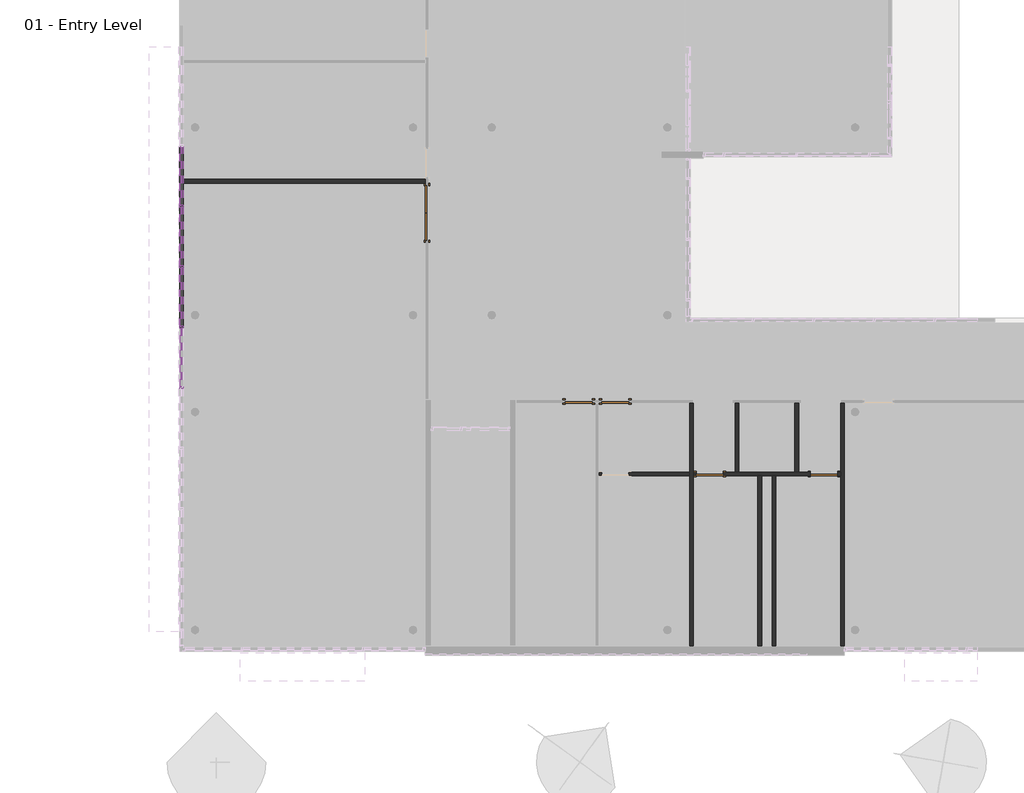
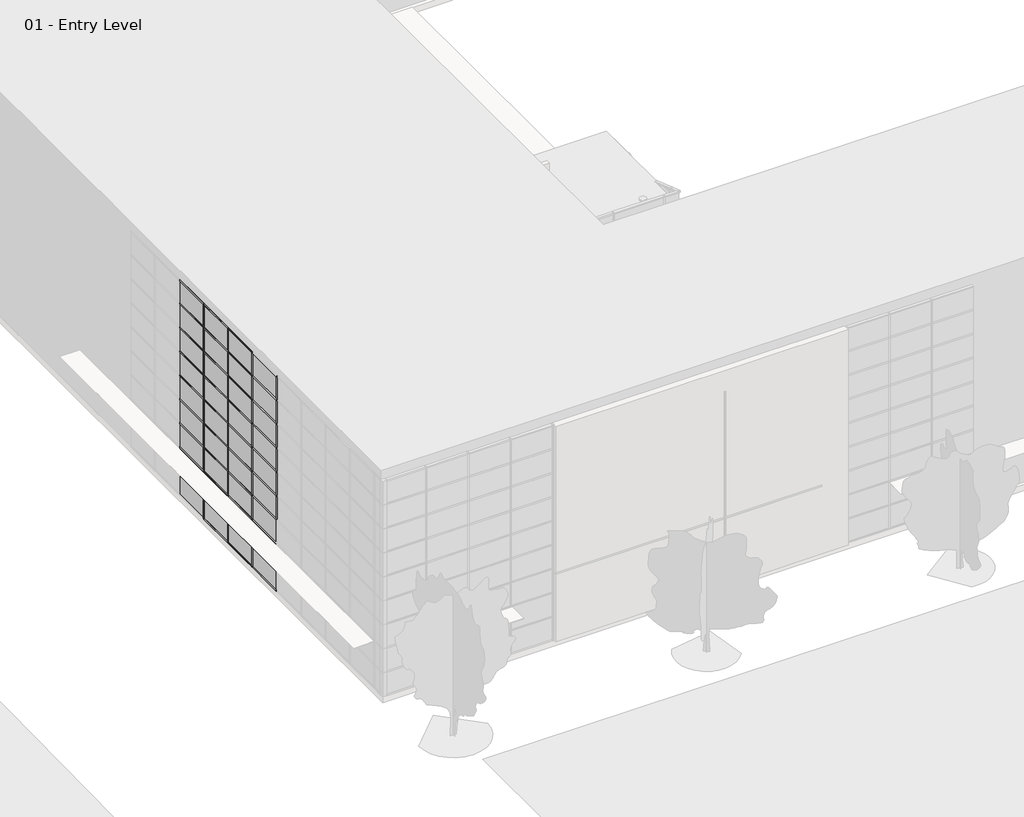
# One storey, part 8 of 34: 64 members, 42 plates, 8 walls, 5 doors.
"""IFC4 building model written with IfcOpenShell, lengths in millimetres."""

from ifc_helpers import new_model, si_unit, origin, origin_with_axes, place, context, project, spatial, polyline, outline, extrude, faceted_brep, transform, mapped, element, save
from components import door_2ec079c3, door_a1797ceb, door_a3eb833a, member_2b49869a, member_391b434c, member_9e90ae50, member_ba732fc4, system_panel_glazed_1b9d6098, system_panel_glazed_70da479d, system_panel_glazed_4b84483b, system_panel_glazed_9dcaf0c5, system_panel_solid_b376696c, system_panel_solid_77e8b053

model = new_model("IFC4")

# Units and contexts
model_context = context("Model", 3, world=origin())
ifc_project = project(units=[si_unit("LENGTHUNIT", "METRE", prefix="MILLI")], contexts=[model_context])

# Site, building, storey
site = spatial("IfcSite", under=ifc_project)
building = spatial("IfcBuilding", under=site)
storey = spatial("IfcBuildingStorey", under=building, Name="01 - Entry Level", Elevation=0.0)

# Doors
placement = place(None, origin())
door_shape = door_2ec079c3(model_context)
element("IfcDoor", 1, ObjectType="Double-Flush : 72\" x 84\"", at=placement, inside=storey, context=model_context, shape_type="MappedRepresentation", body=[
    mapped(door_shape, transform((8421.0207476, 14595.4, 0.0), x_axis=(0.0, 1.0, 0.0), y_axis=(-1.0, 0.0, 0.0), z_axis=(0.0, 0.0, 1.0))),
])
door_2_shape = door_a1797ceb(model_context)
element("IfcDoor", 2, ObjectType="Single-Flush : 36\" x 84\"", at=placement, inside=storey, context=model_context, shape_type="MappedRepresentation", body=[
    mapped(door_2_shape, transform((14732.9207476, 8270.8, 0.0), x_axis=(-1.0, 0.0, 0.0), y_axis=(0.0, -1.0, 0.0), z_axis=(0.0, 0.0, 1.0))),
])
element("IfcDoor", 3, ObjectType="Single-Flush : 36\" x 84\"", at=placement, inside=storey, context=model_context, shape_type="MappedRepresentation", body=[
    mapped(door_2_shape, transform((17907.9207476, 5832.4, 0.0), x_axis=(-1.0, 0.0, 0.0), y_axis=(0.0, -1.0, 0.0), z_axis=(0.0, 0.0, 1.0))),
])
door_3_shape = door_a3eb833a(model_context)
element("IfcDoor", 4, ObjectType="Single-Flush : 36\" x 84\"", at=placement, inside=storey, context=model_context, shape_type="MappedRepresentation", body=[
    mapped(door_3_shape, transform((13513.7207476, 8270.8, 0.0), x_axis=(1.0, 0.0, 0.0), y_axis=(0.0, 1.0, 0.0), z_axis=(0.0, 0.0, 1.0))),
])
element("IfcDoor", 5, ObjectType="Single-Flush : 36\" x 84\"", at=placement, inside=storey, context=model_context, shape_type="MappedRepresentation", body=[
    mapped(door_3_shape, transform((21743.3207476, 5832.4, 0.0), x_axis=(1.0, 0.0, 0.0), y_axis=(0.0, 1.0, 0.0), z_axis=(0.0, 0.0, 1.0))),
])

# Members
member_shape = member_2b49869a(model_context)
element("IfcMember", 6, ObjectType="Rectangular Mullion : 2.5\" x 5\" rectangular", at=placement, inside=storey, context=model_context, shape_type="MappedRepresentation", body=[
    mapped(member_shape, transform((178.7207476, 14824.0, 9753.6), x_axis=(0.0, -1.0, 0.0), y_axis=(-1.0, 0.0, 0.0), z_axis=(0.0, 0.0, -1.0))),
])
element("IfcMember", 7, ObjectType="Rectangular Mullion : 2.5\" x 5\" rectangular", at=placement, inside=storey, context=model_context, shape_type="MappedRepresentation", body=[
    mapped(member_shape, transform((178.7207476, 12792.0, 9753.6), x_axis=(0.0, -1.0, 0.0), y_axis=(-1.0, 0.0, 0.0), z_axis=(0.0, 0.0, -1.0))),
])
element("IfcMember", 8, ObjectType="Rectangular Mullion : 2.5\" x 5\" rectangular", at=placement, inside=storey, context=model_context, shape_type="MappedRepresentation", body=[
    mapped(member_shape, transform((178.7207476, 10760.0, 9753.6), x_axis=(0.0, -1.0, 0.0), y_axis=(-1.0, 0.0, 0.0), z_axis=(0.0, 0.0, -1.0))),
])
element("IfcMember", 9, ObjectType="Rectangular Mullion : 2.5\" x 5\" rectangular", at=placement, inside=storey, context=model_context, shape_type="MappedRepresentation", body=[
    mapped(member_shape, transform((178.7207476, 8728.0, 9753.6), x_axis=(0.0, -1.0, 0.0), y_axis=(-1.0, 0.0, 0.0), z_axis=(0.0, 0.0, -1.0))),
])
member_2_shape = member_391b434c(model_context)
element("IfcMember", 10, ObjectType="Rectangular Mullion : 2.5\" x 5\" rectangular", at=placement, inside=storey, context=model_context, shape_type="MappedRepresentation", body=[
    mapped(member_2_shape, transform((178.7207476, 14855.75, 10972.8), x_axis=(0.0, 0.0, 1.0), y_axis=(-1.0, 0.0, 0.0), z_axis=(0.0, -1.0, 0.0))),
])
element("IfcMember", 11, ObjectType="Rectangular Mullion : 2.5\" x 5\" rectangular", at=placement, inside=storey, context=model_context, shape_type="MappedRepresentation", body=[
    mapped(member_2_shape, transform((178.7207476, 12823.75, 10972.8), x_axis=(0.0, 0.0, 1.0), y_axis=(-1.0, 0.0, 0.0), z_axis=(0.0, -1.0, 0.0))),
])
element("IfcMember", 12, ObjectType="Rectangular Mullion : 2.5\" x 5\" rectangular", at=placement, inside=storey, context=model_context, shape_type="MappedRepresentation", body=[
    mapped(member_2_shape, transform((178.7207476, 10791.75, 10972.8), x_axis=(0.0, 0.0, 1.0), y_axis=(-1.0, 0.0, 0.0), z_axis=(0.0, -1.0, 0.0))),
])
element("IfcMember", 13, ObjectType="Rectangular Mullion : 2.5\" x 5\" rectangular", at=placement, inside=storey, context=model_context, shape_type="MappedRepresentation", body=[
    mapped(member_2_shape, transform((178.7207476, 14792.25, 0.0), x_axis=(0.0, 0.0, -1.0), y_axis=(-1.0, 0.0, 0.0), z_axis=(0.0, 1.0, 0.0))),
])
element("IfcMember", 14, ObjectType="Rectangular Mullion : 2.5\" x 5\" rectangular", at=placement, inside=storey, context=model_context, shape_type="MappedRepresentation", body=[
    mapped(member_2_shape, transform((178.7207476, 12760.25, 0.0), x_axis=(0.0, 0.0, -1.0), y_axis=(-1.0, 0.0, 0.0), z_axis=(0.0, 1.0, 0.0))),
])
element("IfcMember", 15, ObjectType="Rectangular Mullion : 2.5\" x 5\" rectangular", at=placement, inside=storey, context=model_context, shape_type="MappedRepresentation", body=[
    mapped(member_2_shape, transform((178.7207476, 10728.25, 0.0), x_axis=(0.0, 0.0, -1.0), y_axis=(-1.0, 0.0, 0.0), z_axis=(0.0, 1.0, 0.0))),
])
member_3_shape = member_9e90ae50(model_context)
element("IfcMember", 16, ObjectType="Rectangular Mullion : 2.5\" x 5\" rectangular", at=placement, inside=storey, context=model_context, shape_type="MappedRepresentation", body=[
    mapped(member_3_shape, transform((178.7207476, 14855.75, 1219.2), x_axis=(0.0, 0.0, 1.0), y_axis=(-1.0, 0.0, 0.0), z_axis=(0.0, -1.0, 0.0))),
])
element("IfcMember", 17, ObjectType="Rectangular Mullion : 2.5\" x 5\" rectangular", at=placement, inside=storey, context=model_context, shape_type="MappedRepresentation", body=[
    mapped(member_3_shape, transform((178.7207476, 12823.75, 1219.2), x_axis=(0.0, 0.0, 1.0), y_axis=(-1.0, 0.0, 0.0), z_axis=(0.0, -1.0, 0.0))),
])
element("IfcMember", 18, ObjectType="Rectangular Mullion : 2.5\" x 5\" rectangular", at=placement, inside=storey, context=model_context, shape_type="MappedRepresentation", body=[
    mapped(member_3_shape, transform((178.7207476, 10791.75, 1219.2), x_axis=(0.0, 0.0, 1.0), y_axis=(-1.0, 0.0, 0.0), z_axis=(0.0, -1.0, 0.0))),
])
element("IfcMember", 19, ObjectType="Rectangular Mullion : 2.5\" x 5\" rectangular", at=placement, inside=storey, context=model_context, shape_type="MappedRepresentation", body=[
    mapped(member_3_shape, transform((178.7207476, 14855.75, 2438.4), x_axis=(0.0, 0.0, 1.0), y_axis=(-1.0, 0.0, 0.0), z_axis=(0.0, -1.0, 0.0))),
])
element("IfcMember", 20, ObjectType="Rectangular Mullion : 2.5\" x 5\" rectangular", at=placement, inside=storey, context=model_context, shape_type="MappedRepresentation", body=[
    mapped(member_3_shape, transform((178.7207476, 12823.75, 2438.4), x_axis=(0.0, 0.0, 1.0), y_axis=(-1.0, 0.0, 0.0), z_axis=(0.0, -1.0, 0.0))),
])
element("IfcMember", 21, ObjectType="Rectangular Mullion : 2.5\" x 5\" rectangular", at=placement, inside=storey, context=model_context, shape_type="MappedRepresentation", body=[
    mapped(member_3_shape, transform((178.7207476, 10791.75, 2438.4), x_axis=(0.0, 0.0, 1.0), y_axis=(-1.0, 0.0, 0.0), z_axis=(0.0, -1.0, 0.0))),
])
element("IfcMember", 22, ObjectType="Rectangular Mullion : 2.5\" x 5\" rectangular", at=placement, inside=storey, context=model_context, shape_type="MappedRepresentation", body=[
    mapped(member_3_shape, transform((178.7207476, 14855.75, 3657.6), x_axis=(0.0, 0.0, 1.0), y_axis=(-1.0, 0.0, 0.0), z_axis=(0.0, -1.0, 0.0))),
])
element("IfcMember", 23, ObjectType="Rectangular Mullion : 2.5\" x 5\" rectangular", at=placement, inside=storey, context=model_context, shape_type="MappedRepresentation", body=[
    mapped(member_3_shape, transform((178.7207476, 12823.75, 3657.6), x_axis=(0.0, 0.0, 1.0), y_axis=(-1.0, 0.0, 0.0), z_axis=(0.0, -1.0, 0.0))),
])
element("IfcMember", 24, ObjectType="Rectangular Mullion : 2.5\" x 5\" rectangular", at=placement, inside=storey, context=model_context, shape_type="MappedRepresentation", body=[
    mapped(member_3_shape, transform((178.7207476, 10791.75, 3657.6), x_axis=(0.0, 0.0, 1.0), y_axis=(-1.0, 0.0, 0.0), z_axis=(0.0, -1.0, 0.0))),
])
element("IfcMember", 25, ObjectType="Rectangular Mullion : 2.5\" x 5\" rectangular", at=placement, inside=storey, context=model_context, shape_type="MappedRepresentation", body=[
    mapped(member_3_shape, transform((178.7207476, 14855.75, 4876.8), x_axis=(0.0, 0.0, 1.0), y_axis=(-1.0, 0.0, 0.0), z_axis=(0.0, -1.0, 0.0))),
])
element("IfcMember", 26, ObjectType="Rectangular Mullion : 2.5\" x 5\" rectangular", at=placement, inside=storey, context=model_context, shape_type="MappedRepresentation", body=[
    mapped(member_3_shape, transform((178.7207476, 12823.75, 4876.8), x_axis=(0.0, 0.0, 1.0), y_axis=(-1.0, 0.0, 0.0), z_axis=(0.0, -1.0, 0.0))),
])
element("IfcMember", 27, ObjectType="Rectangular Mullion : 2.5\" x 5\" rectangular", at=placement, inside=storey, context=model_context, shape_type="MappedRepresentation", body=[
    mapped(member_3_shape, transform((178.7207476, 10791.75, 4876.8), x_axis=(0.0, 0.0, 1.0), y_axis=(-1.0, 0.0, 0.0), z_axis=(0.0, -1.0, 0.0))),
])
element("IfcMember", 28, ObjectType="Rectangular Mullion : 2.5\" x 5\" rectangular", at=placement, inside=storey, context=model_context, shape_type="MappedRepresentation", body=[
    mapped(member_3_shape, transform((178.7207476, 14855.75, 6096.0), x_axis=(0.0, 0.0, 1.0), y_axis=(-1.0, 0.0, 0.0), z_axis=(0.0, -1.0, 0.0))),
])
element("IfcMember", 29, ObjectType="Rectangular Mullion : 2.5\" x 5\" rectangular", at=placement, inside=storey, context=model_context, shape_type="MappedRepresentation", body=[
    mapped(member_3_shape, transform((178.7207476, 12823.75, 6096.0), x_axis=(0.0, 0.0, 1.0), y_axis=(-1.0, 0.0, 0.0), z_axis=(0.0, -1.0, 0.0))),
])
element("IfcMember", 30, ObjectType="Rectangular Mullion : 2.5\" x 5\" rectangular", at=placement, inside=storey, context=model_context, shape_type="MappedRepresentation", body=[
    mapped(member_3_shape, transform((178.7207476, 10791.75, 6096.0), x_axis=(0.0, 0.0, 1.0), y_axis=(-1.0, 0.0, 0.0), z_axis=(0.0, -1.0, 0.0))),
])
element("IfcMember", 31, ObjectType="Rectangular Mullion : 2.5\" x 5\" rectangular", at=placement, inside=storey, context=model_context, shape_type="MappedRepresentation", body=[
    mapped(member_3_shape, transform((178.7207476, 14855.75, 7315.2), x_axis=(0.0, 0.0, 1.0), y_axis=(-1.0, 0.0, 0.0), z_axis=(0.0, -1.0, 0.0))),
])
element("IfcMember", 32, ObjectType="Rectangular Mullion : 2.5\" x 5\" rectangular", at=placement, inside=storey, context=model_context, shape_type="MappedRepresentation", body=[
    mapped(member_3_shape, transform((178.7207476, 12823.75, 7315.2), x_axis=(0.0, 0.0, 1.0), y_axis=(-1.0, 0.0, 0.0), z_axis=(0.0, -1.0, 0.0))),
])
element("IfcMember", 33, ObjectType="Rectangular Mullion : 2.5\" x 5\" rectangular", at=placement, inside=storey, context=model_context, shape_type="MappedRepresentation", body=[
    mapped(member_3_shape, transform((178.7207476, 10791.75, 7315.2), x_axis=(0.0, 0.0, 1.0), y_axis=(-1.0, 0.0, 0.0), z_axis=(0.0, -1.0, 0.0))),
])
element("IfcMember", 34, ObjectType="Rectangular Mullion : 2.5\" x 5\" rectangular", at=placement, inside=storey, context=model_context, shape_type="MappedRepresentation", body=[
    mapped(member_3_shape, transform((178.7207476, 14855.75, 8534.4), x_axis=(0.0, 0.0, 1.0), y_axis=(-1.0, 0.0, 0.0), z_axis=(0.0, -1.0, 0.0))),
])
element("IfcMember", 35, ObjectType="Rectangular Mullion : 2.5\" x 5\" rectangular", at=placement, inside=storey, context=model_context, shape_type="MappedRepresentation", body=[
    mapped(member_3_shape, transform((178.7207476, 12823.75, 8534.4), x_axis=(0.0, 0.0, 1.0), y_axis=(-1.0, 0.0, 0.0), z_axis=(0.0, -1.0, 0.0))),
])
element("IfcMember", 36, ObjectType="Rectangular Mullion : 2.5\" x 5\" rectangular", at=placement, inside=storey, context=model_context, shape_type="MappedRepresentation", body=[
    mapped(member_3_shape, transform((178.7207476, 10791.75, 8534.4), x_axis=(0.0, 0.0, 1.0), y_axis=(-1.0, 0.0, 0.0), z_axis=(0.0, -1.0, 0.0))),
])
element("IfcMember", 37, ObjectType="Rectangular Mullion : 2.5\" x 5\" rectangular", at=placement, inside=storey, context=model_context, shape_type="MappedRepresentation", body=[
    mapped(member_3_shape, transform((178.7207476, 14855.75, 9753.6), x_axis=(0.0, 0.0, 1.0), y_axis=(-1.0, 0.0, 0.0), z_axis=(0.0, -1.0, 0.0))),
])
element("IfcMember", 38, ObjectType="Rectangular Mullion : 2.5\" x 5\" rectangular", at=placement, inside=storey, context=model_context, shape_type="MappedRepresentation", body=[
    mapped(member_3_shape, transform((178.7207476, 12823.75, 9753.6), x_axis=(0.0, 0.0, 1.0), y_axis=(-1.0, 0.0, 0.0), z_axis=(0.0, -1.0, 0.0))),
])
element("IfcMember", 39, ObjectType="Rectangular Mullion : 2.5\" x 5\" rectangular", at=placement, inside=storey, context=model_context, shape_type="MappedRepresentation", body=[
    mapped(member_3_shape, transform((178.7207476, 10791.75, 9753.6), x_axis=(0.0, 0.0, 1.0), y_axis=(-1.0, 0.0, 0.0), z_axis=(0.0, -1.0, 0.0))),
])
element("IfcMember", 40, ObjectType="Rectangular Mullion : 2.5\" x 5\" rectangular", at=placement, inside=storey, context=model_context, shape_type="MappedRepresentation", body=[
    mapped(member_shape, transform((178.7207476, 14824.0, 0.0), x_axis=(0.0, -1.0, 0.0), y_axis=(-1.0, 0.0, 0.0), z_axis=(0.0, 0.0, -1.0))),
])
element("IfcMember", 41, ObjectType="Rectangular Mullion : 2.5\" x 5\" rectangular", at=placement, inside=storey, context=model_context, shape_type="MappedRepresentation", body=[
    mapped(member_shape, transform((178.7207476, 12792.0, 0.0), x_axis=(0.0, -1.0, 0.0), y_axis=(-1.0, 0.0, 0.0), z_axis=(0.0, 0.0, -1.0))),
])
element("IfcMember", 42, ObjectType="Rectangular Mullion : 2.5\" x 5\" rectangular", at=placement, inside=storey, context=model_context, shape_type="MappedRepresentation", body=[
    mapped(member_shape, transform((178.7207476, 10760.0, 0.0), x_axis=(0.0, -1.0, 0.0), y_axis=(-1.0, 0.0, 0.0), z_axis=(0.0, 0.0, -1.0))),
])
element("IfcMember", 43, ObjectType="Rectangular Mullion : 2.5\" x 5\" rectangular", at=placement, inside=storey, context=model_context, shape_type="MappedRepresentation", body=[
    mapped(member_shape, transform((178.7207476, 14824.0, 1219.2), x_axis=(0.0, -1.0, 0.0), y_axis=(-1.0, 0.0, 0.0), z_axis=(0.0, 0.0, -1.0))),
])
element("IfcMember", 44, ObjectType="Rectangular Mullion : 2.5\" x 5\" rectangular", at=placement, inside=storey, context=model_context, shape_type="MappedRepresentation", body=[
    mapped(member_shape, transform((178.7207476, 12792.0, 1219.2), x_axis=(0.0, -1.0, 0.0), y_axis=(-1.0, 0.0, 0.0), z_axis=(0.0, 0.0, -1.0))),
])
element("IfcMember", 45, ObjectType="Rectangular Mullion : 2.5\" x 5\" rectangular", at=placement, inside=storey, context=model_context, shape_type="MappedRepresentation", body=[
    mapped(member_shape, transform((178.7207476, 10760.0, 1219.2), x_axis=(0.0, -1.0, 0.0), y_axis=(-1.0, 0.0, 0.0), z_axis=(0.0, 0.0, -1.0))),
])
element("IfcMember", 46, ObjectType="Rectangular Mullion : 2.5\" x 5\" rectangular", at=placement, inside=storey, context=model_context, shape_type="MappedRepresentation", body=[
    mapped(member_shape, transform((178.7207476, 14824.0, 2438.4), x_axis=(0.0, -1.0, 0.0), y_axis=(-1.0, 0.0, 0.0), z_axis=(0.0, 0.0, -1.0))),
])
element("IfcMember", 47, ObjectType="Rectangular Mullion : 2.5\" x 5\" rectangular", at=placement, inside=storey, context=model_context, shape_type="MappedRepresentation", body=[
    mapped(member_shape, transform((178.7207476, 12792.0, 2438.4), x_axis=(0.0, -1.0, 0.0), y_axis=(-1.0, 0.0, 0.0), z_axis=(0.0, 0.0, -1.0))),
])
element("IfcMember", 48, ObjectType="Rectangular Mullion : 2.5\" x 5\" rectangular", at=placement, inside=storey, context=model_context, shape_type="MappedRepresentation", body=[
    mapped(member_shape, transform((178.7207476, 10760.0, 2438.4), x_axis=(0.0, -1.0, 0.0), y_axis=(-1.0, 0.0, 0.0), z_axis=(0.0, 0.0, -1.0))),
])
element("IfcMember", 49, ObjectType="Rectangular Mullion : 2.5\" x 5\" rectangular", at=placement, inside=storey, context=model_context, shape_type="MappedRepresentation", body=[
    mapped(member_shape, transform((178.7207476, 14824.0, 3657.6), x_axis=(0.0, -1.0, 0.0), y_axis=(-1.0, 0.0, 0.0), z_axis=(0.0, 0.0, -1.0))),
])
element("IfcMember", 50, ObjectType="Rectangular Mullion : 2.5\" x 5\" rectangular", at=placement, inside=storey, context=model_context, shape_type="MappedRepresentation", body=[
    mapped(member_shape, transform((178.7207476, 12792.0, 3657.6), x_axis=(0.0, -1.0, 0.0), y_axis=(-1.0, 0.0, 0.0), z_axis=(0.0, 0.0, -1.0))),
])
element("IfcMember", 51, ObjectType="Rectangular Mullion : 2.5\" x 5\" rectangular", at=placement, inside=storey, context=model_context, shape_type="MappedRepresentation", body=[
    mapped(member_shape, transform((178.7207476, 10760.0, 3657.6), x_axis=(0.0, -1.0, 0.0), y_axis=(-1.0, 0.0, 0.0), z_axis=(0.0, 0.0, -1.0))),
])
element("IfcMember", 52, ObjectType="Rectangular Mullion : 2.5\" x 5\" rectangular", at=placement, inside=storey, context=model_context, shape_type="MappedRepresentation", body=[
    mapped(member_shape, transform((178.7207476, 8728.0, 3657.6), x_axis=(0.0, -1.0, 0.0), y_axis=(-1.0, 0.0, 0.0), z_axis=(0.0, 0.0, -1.0))),
])
element("IfcMember", 53, ObjectType="Rectangular Mullion : 2.5\" x 5\" rectangular", at=placement, inside=storey, context=model_context, shape_type="MappedRepresentation", body=[
    mapped(member_shape, transform((178.7207476, 14824.0, 4876.8), x_axis=(0.0, -1.0, 0.0), y_axis=(-1.0, 0.0, 0.0), z_axis=(0.0, 0.0, -1.0))),
])
element("IfcMember", 54, ObjectType="Rectangular Mullion : 2.5\" x 5\" rectangular", at=placement, inside=storey, context=model_context, shape_type="MappedRepresentation", body=[
    mapped(member_shape, transform((178.7207476, 12792.0, 4876.8), x_axis=(0.0, -1.0, 0.0), y_axis=(-1.0, 0.0, 0.0), z_axis=(0.0, 0.0, -1.0))),
])
element("IfcMember", 55, ObjectType="Rectangular Mullion : 2.5\" x 5\" rectangular", at=placement, inside=storey, context=model_context, shape_type="MappedRepresentation", body=[
    mapped(member_shape, transform((178.7207476, 10760.0, 4876.8), x_axis=(0.0, -1.0, 0.0), y_axis=(-1.0, 0.0, 0.0), z_axis=(0.0, 0.0, -1.0))),
])
element("IfcMember", 56, ObjectType="Rectangular Mullion : 2.5\" x 5\" rectangular", at=placement, inside=storey, context=model_context, shape_type="MappedRepresentation", body=[
    mapped(member_shape, transform((178.7207476, 8728.0, 4876.8), x_axis=(0.0, -1.0, 0.0), y_axis=(-1.0, 0.0, 0.0), z_axis=(0.0, 0.0, -1.0))),
])
element("IfcMember", 57, ObjectType="Rectangular Mullion : 2.5\" x 5\" rectangular", at=placement, inside=storey, context=model_context, shape_type="MappedRepresentation", body=[
    mapped(member_shape, transform((178.7207476, 14824.0, 6096.0), x_axis=(0.0, -1.0, 0.0), y_axis=(-1.0, 0.0, 0.0), z_axis=(0.0, 0.0, -1.0))),
])
element("IfcMember", 58, ObjectType="Rectangular Mullion : 2.5\" x 5\" rectangular", at=placement, inside=storey, context=model_context, shape_type="MappedRepresentation", body=[
    mapped(member_shape, transform((178.7207476, 12792.0, 6096.0), x_axis=(0.0, -1.0, 0.0), y_axis=(-1.0, 0.0, 0.0), z_axis=(0.0, 0.0, -1.0))),
])
element("IfcMember", 59, ObjectType="Rectangular Mullion : 2.5\" x 5\" rectangular", at=placement, inside=storey, context=model_context, shape_type="MappedRepresentation", body=[
    mapped(member_shape, transform((178.7207476, 10760.0, 6096.0), x_axis=(0.0, -1.0, 0.0), y_axis=(-1.0, 0.0, 0.0), z_axis=(0.0, 0.0, -1.0))),
])
element("IfcMember", 60, ObjectType="Rectangular Mullion : 2.5\" x 5\" rectangular", at=placement, inside=storey, context=model_context, shape_type="MappedRepresentation", body=[
    mapped(member_shape, transform((178.7207476, 8728.0, 6096.0), x_axis=(0.0, -1.0, 0.0), y_axis=(-1.0, 0.0, 0.0), z_axis=(0.0, 0.0, -1.0))),
])
element("IfcMember", 61, ObjectType="Rectangular Mullion : 2.5\" x 5\" rectangular", at=placement, inside=storey, context=model_context, shape_type="MappedRepresentation", body=[
    mapped(member_shape, transform((178.7207476, 14824.0, 7315.2), x_axis=(0.0, -1.0, 0.0), y_axis=(-1.0, 0.0, 0.0), z_axis=(0.0, 0.0, -1.0))),
])
element("IfcMember", 62, ObjectType="Rectangular Mullion : 2.5\" x 5\" rectangular", at=placement, inside=storey, context=model_context, shape_type="MappedRepresentation", body=[
    mapped(member_shape, transform((178.7207476, 12792.0, 7315.2), x_axis=(0.0, -1.0, 0.0), y_axis=(-1.0, 0.0, 0.0), z_axis=(0.0, 0.0, -1.0))),
])
element("IfcMember", 63, ObjectType="Rectangular Mullion : 2.5\" x 5\" rectangular", at=placement, inside=storey, context=model_context, shape_type="MappedRepresentation", body=[
    mapped(member_shape, transform((178.7207476, 10760.0, 7315.2), x_axis=(0.0, -1.0, 0.0), y_axis=(-1.0, 0.0, 0.0), z_axis=(0.0, 0.0, -1.0))),
])
element("IfcMember", 64, ObjectType="Rectangular Mullion : 2.5\" x 5\" rectangular", at=placement, inside=storey, context=model_context, shape_type="MappedRepresentation", body=[
    mapped(member_shape, transform((178.7207476, 8728.0, 7315.2), x_axis=(0.0, -1.0, 0.0), y_axis=(-1.0, 0.0, 0.0), z_axis=(0.0, 0.0, -1.0))),
])
element("IfcMember", 65, ObjectType="Rectangular Mullion : 2.5\" x 5\" rectangular", at=placement, inside=storey, context=model_context, shape_type="MappedRepresentation", body=[
    mapped(member_shape, transform((178.7207476, 14824.0, 8534.4), x_axis=(0.0, -1.0, 0.0), y_axis=(-1.0, 0.0, 0.0), z_axis=(0.0, 0.0, -1.0))),
])
element("IfcMember", 66, ObjectType="Rectangular Mullion : 2.5\" x 5\" rectangular", at=placement, inside=storey, context=model_context, shape_type="MappedRepresentation", body=[
    mapped(member_shape, transform((178.7207476, 12792.0, 8534.4), x_axis=(0.0, -1.0, 0.0), y_axis=(-1.0, 0.0, 0.0), z_axis=(0.0, 0.0, -1.0))),
])
element("IfcMember", 67, ObjectType="Rectangular Mullion : 2.5\" x 5\" rectangular", at=placement, inside=storey, context=model_context, shape_type="MappedRepresentation", body=[
    mapped(member_shape, transform((178.7207476, 10760.0, 8534.4), x_axis=(0.0, -1.0, 0.0), y_axis=(-1.0, 0.0, 0.0), z_axis=(0.0, 0.0, -1.0))),
])
element("IfcMember", 68, ObjectType="Rectangular Mullion : 2.5\" x 5\" rectangular", at=placement, inside=storey, context=model_context, shape_type="MappedRepresentation", body=[
    mapped(member_shape, transform((178.7207476, 8728.0, 8534.4), x_axis=(0.0, -1.0, 0.0), y_axis=(-1.0, 0.0, 0.0), z_axis=(0.0, 0.0, -1.0))),
])
member_4_shape = member_ba732fc4(model_context)
element("IfcMember", 69, ObjectType="Rectangular Mullion : 2.5\" x 5\" rectangular", at=placement, inside=storey, context=model_context, shape_type="MappedRepresentation", body=[
    mapped(member_4_shape, transform((17311.0207476, 11001.3, 10972.8), x_axis=(0.0, 0.0, 1.0), y_axis=(0.0, 1.0, 0.0), z_axis=(-1.0, 0.0, 0.0))),
])

# Plates
system_panel_glazed_shape = system_panel_glazed_1b9d6098(model_context)
element("IfcPlate", 70, ObjectType="System Panel : Glazed", at=placement, inside=storey, context=model_context, shape_type="MappedRepresentation", body=[
    mapped(system_panel_glazed_shape, transform((178.7207476, 15840.0, 63.5), x_axis=(0.0, -1.0, 0.0), y_axis=(1.0, 0.0, 0.0), z_axis=(0.0, 0.0, 1.0))),
])
element("IfcPlate", 71, ObjectType="System Panel : Glazed", at=placement, inside=storey, context=model_context, shape_type="MappedRepresentation", body=[
    mapped(system_panel_glazed_shape, transform((178.7207476, 13808.0, 63.5), x_axis=(0.0, -1.0, 0.0), y_axis=(1.0, 0.0, 0.0), z_axis=(0.0, 0.0, 1.0))),
])
element("IfcPlate", 72, ObjectType="System Panel : Glazed", at=placement, inside=storey, context=model_context, shape_type="MappedRepresentation", body=[
    mapped(system_panel_glazed_shape, transform((178.7207476, 11776.0, 63.5), x_axis=(0.0, -1.0, 0.0), y_axis=(1.0, 0.0, 0.0), z_axis=(0.0, 0.0, 1.0))),
])
element("IfcPlate", 73, ObjectType="System Panel : Glazed", at=placement, inside=storey, context=model_context, shape_type="MappedRepresentation", body=[
    mapped(system_panel_glazed_shape, transform((178.7207476, 9744.0, 63.5), x_axis=(0.0, -1.0, 0.0), y_axis=(1.0, 0.0, 0.0), z_axis=(0.0, 0.0, 1.0))),
])
system_panel_glazed_2_shape = system_panel_glazed_70da479d(model_context)
element("IfcPlate", 74, ObjectType="System Panel : Glazed", at=placement, inside=storey, context=model_context, shape_type="MappedRepresentation", body=[
    mapped(system_panel_glazed_2_shape, transform((178.7207476, 15840.0, 1250.95), x_axis=(0.0, -1.0, 0.0), y_axis=(1.0, 0.0, 0.0), z_axis=(0.0, 0.0, 1.0))),
])
element("IfcPlate", 75, ObjectType="System Panel : Glazed", at=placement, inside=storey, context=model_context, shape_type="MappedRepresentation", body=[
    mapped(system_panel_glazed_2_shape, transform((178.7207476, 13808.0, 1250.95), x_axis=(0.0, -1.0, 0.0), y_axis=(1.0, 0.0, 0.0), z_axis=(0.0, 0.0, 1.0))),
])
element("IfcPlate", 76, ObjectType="System Panel : Glazed", at=placement, inside=storey, context=model_context, shape_type="MappedRepresentation", body=[
    mapped(system_panel_glazed_2_shape, transform((178.7207476, 11776.0, 1250.95), x_axis=(0.0, -1.0, 0.0), y_axis=(1.0, 0.0, 0.0), z_axis=(0.0, 0.0, 1.0))),
])
element("IfcPlate", 77, ObjectType="System Panel : Glazed", at=placement, inside=storey, context=model_context, shape_type="MappedRepresentation", body=[
    mapped(system_panel_glazed_2_shape, transform((178.7207476, 9744.0, 1250.95), x_axis=(0.0, -1.0, 0.0), y_axis=(1.0, 0.0, 0.0), z_axis=(0.0, 0.0, 1.0))),
])
element("IfcPlate", 78, ObjectType="System Panel : Glazed", at=placement, inside=storey, context=model_context, shape_type="MappedRepresentation", body=[
    mapped(system_panel_glazed_2_shape, transform((178.7207476, 15840.0, 3689.35), x_axis=(0.0, -1.0, 0.0), y_axis=(1.0, 0.0, 0.0), z_axis=(0.0, 0.0, 1.0))),
])
element("IfcPlate", 79, ObjectType="System Panel : Glazed", at=placement, inside=storey, context=model_context, shape_type="MappedRepresentation", body=[
    mapped(system_panel_glazed_2_shape, transform((178.7207476, 13808.0, 3689.35), x_axis=(0.0, -1.0, 0.0), y_axis=(1.0, 0.0, 0.0), z_axis=(0.0, 0.0, 1.0))),
])
element("IfcPlate", 80, ObjectType="System Panel : Glazed", at=placement, inside=storey, context=model_context, shape_type="MappedRepresentation", body=[
    mapped(system_panel_glazed_2_shape, transform((178.7207476, 11776.0, 3689.35), x_axis=(0.0, -1.0, 0.0), y_axis=(1.0, 0.0, 0.0), z_axis=(0.0, 0.0, 1.0))),
])
element("IfcPlate", 81, ObjectType="System Panel : Glazed", at=placement, inside=storey, context=model_context, shape_type="MappedRepresentation", body=[
    mapped(system_panel_glazed_2_shape, transform((178.7207476, 9744.0, 3689.35), x_axis=(0.0, -1.0, 0.0), y_axis=(1.0, 0.0, 0.0), z_axis=(0.0, 0.0, 1.0))),
])
element("IfcPlate", 82, ObjectType="System Panel : Glazed", at=placement, inside=storey, context=model_context, shape_type="MappedRepresentation", body=[
    mapped(system_panel_glazed_2_shape, transform((178.7207476, 15840.0, 4908.55), x_axis=(0.0, -1.0, 0.0), y_axis=(1.0, 0.0, 0.0), z_axis=(0.0, 0.0, 1.0))),
])
element("IfcPlate", 83, ObjectType="System Panel : Glazed", at=placement, inside=storey, context=model_context, shape_type="MappedRepresentation", body=[
    mapped(system_panel_glazed_2_shape, transform((178.7207476, 13808.0, 4908.55), x_axis=(0.0, -1.0, 0.0), y_axis=(1.0, 0.0, 0.0), z_axis=(0.0, 0.0, 1.0))),
])
element("IfcPlate", 84, ObjectType="System Panel : Glazed", at=placement, inside=storey, context=model_context, shape_type="MappedRepresentation", body=[
    mapped(system_panel_glazed_2_shape, transform((178.7207476, 11776.0, 4908.55), x_axis=(0.0, -1.0, 0.0), y_axis=(1.0, 0.0, 0.0), z_axis=(0.0, 0.0, 1.0))),
])
element("IfcPlate", 85, ObjectType="System Panel : Glazed", at=placement, inside=storey, context=model_context, shape_type="MappedRepresentation", body=[
    mapped(system_panel_glazed_2_shape, transform((178.7207476, 9744.0, 4908.55), x_axis=(0.0, -1.0, 0.0), y_axis=(1.0, 0.0, 0.0), z_axis=(0.0, 0.0, 1.0))),
])
element("IfcPlate", 86, ObjectType="System Panel : Glazed", at=placement, inside=storey, context=model_context, shape_type="MappedRepresentation", body=[
    mapped(system_panel_glazed_2_shape, transform((178.7207476, 15840.0, 7346.95), x_axis=(0.0, -1.0, 0.0), y_axis=(1.0, 0.0, 0.0), z_axis=(0.0, 0.0, 1.0))),
])
element("IfcPlate", 87, ObjectType="System Panel : Glazed", at=placement, inside=storey, context=model_context, shape_type="MappedRepresentation", body=[
    mapped(system_panel_glazed_2_shape, transform((178.7207476, 13808.0, 7346.95), x_axis=(0.0, -1.0, 0.0), y_axis=(1.0, 0.0, 0.0), z_axis=(0.0, 0.0, 1.0))),
])
element("IfcPlate", 88, ObjectType="System Panel : Glazed", at=placement, inside=storey, context=model_context, shape_type="MappedRepresentation", body=[
    mapped(system_panel_glazed_2_shape, transform((178.7207476, 11776.0, 7346.95), x_axis=(0.0, -1.0, 0.0), y_axis=(1.0, 0.0, 0.0), z_axis=(0.0, 0.0, 1.0))),
])
element("IfcPlate", 89, ObjectType="System Panel : Glazed", at=placement, inside=storey, context=model_context, shape_type="MappedRepresentation", body=[
    mapped(system_panel_glazed_2_shape, transform((178.7207476, 9744.0, 7346.95), x_axis=(0.0, -1.0, 0.0), y_axis=(1.0, 0.0, 0.0), z_axis=(0.0, 0.0, 1.0))),
])
element("IfcPlate", 90, ObjectType="System Panel : Glazed", at=placement, inside=storey, context=model_context, shape_type="MappedRepresentation", body=[
    mapped(system_panel_glazed_2_shape, transform((178.7207476, 15840.0, 8566.15), x_axis=(0.0, -1.0, 0.0), y_axis=(1.0, 0.0, 0.0), z_axis=(0.0, 0.0, 1.0))),
])
element("IfcPlate", 91, ObjectType="System Panel : Glazed", at=placement, inside=storey, context=model_context, shape_type="MappedRepresentation", body=[
    mapped(system_panel_glazed_2_shape, transform((178.7207476, 13808.0, 8566.15), x_axis=(0.0, -1.0, 0.0), y_axis=(1.0, 0.0, 0.0), z_axis=(0.0, 0.0, 1.0))),
])
element("IfcPlate", 92, ObjectType="System Panel : Glazed", at=placement, inside=storey, context=model_context, shape_type="MappedRepresentation", body=[
    mapped(system_panel_glazed_2_shape, transform((178.7207476, 11776.0, 8566.15), x_axis=(0.0, -1.0, 0.0), y_axis=(1.0, 0.0, 0.0), z_axis=(0.0, 0.0, 1.0))),
])
element("IfcPlate", 93, ObjectType="System Panel : Glazed", at=placement, inside=storey, context=model_context, shape_type="MappedRepresentation", body=[
    mapped(system_panel_glazed_2_shape, transform((178.7207476, 9744.0, 8566.15), x_axis=(0.0, -1.0, 0.0), y_axis=(1.0, 0.0, 0.0), z_axis=(0.0, 0.0, 1.0))),
])
system_panel_glazed_3_shape = system_panel_glazed_4b84483b(model_context)
element("IfcPlate", 94, ObjectType="System Panel : Glazed", at=placement, inside=storey, context=model_context, shape_type="MappedRepresentation", body=[
    mapped(system_panel_glazed_3_shape, transform((17184.0207476, 11391.825, 63.5), x_axis=(0.0, 1.0, 0.0), y_axis=(-1.0, 0.0, 0.0), z_axis=(0.0, 0.0, 1.0))),
])
system_panel_glazed_4_shape = system_panel_glazed_9dcaf0c5(model_context)
element("IfcPlate", 95, ObjectType="System Panel : Glazed", at=placement, inside=storey, context=model_context, shape_type="MappedRepresentation", body=[
    mapped(system_panel_glazed_4_shape, transform((17184.0207476, 11391.825, 1250.95), x_axis=(0.0, 1.0, 0.0), y_axis=(-1.0, 0.0, 0.0), z_axis=(0.0, 0.0, 1.0))),
])
element("IfcPlate", 96, ObjectType="System Panel : Glazed", at=placement, inside=storey, context=model_context, shape_type="MappedRepresentation", body=[
    mapped(system_panel_glazed_4_shape, transform((17184.0207476, 11391.825, 2470.15), x_axis=(0.0, 1.0, 0.0), y_axis=(-1.0, 0.0, 0.0), z_axis=(0.0, 0.0, 1.0))),
])
element("IfcPlate", 97, ObjectType="System Panel : Glazed", at=placement, inside=storey, context=model_context, shape_type="MappedRepresentation", body=[
    mapped(system_panel_glazed_4_shape, transform((17184.0207476, 11391.825, 3689.35), x_axis=(0.0, 1.0, 0.0), y_axis=(-1.0, 0.0, 0.0), z_axis=(0.0, 0.0, 1.0))),
])
element("IfcPlate", 98, ObjectType="System Panel : Glazed", at=placement, inside=storey, context=model_context, shape_type="MappedRepresentation", body=[
    mapped(system_panel_glazed_4_shape, transform((17184.0207476, 11391.825, 4908.55), x_axis=(0.0, 1.0, 0.0), y_axis=(-1.0, 0.0, 0.0), z_axis=(0.0, 0.0, 1.0))),
])
element("IfcPlate", 99, ObjectType="System Panel : Glazed", at=placement, inside=storey, context=model_context, shape_type="MappedRepresentation", body=[
    mapped(system_panel_glazed_4_shape, transform((17184.0207476, 11391.825, 6127.75), x_axis=(0.0, 1.0, 0.0), y_axis=(-1.0, 0.0, 0.0), z_axis=(0.0, 0.0, 1.0))),
])
system_panel_solid_shape = system_panel_solid_b376696c(model_context)
element("IfcPlate", 100, ObjectType="System Panel : Solid", at=placement, inside=storey, context=model_context, shape_type="MappedRepresentation", body=[
    mapped(system_panel_solid_shape, transform((178.7207476, 15840.0, 9785.35), x_axis=(0.0, -1.0, 0.0), y_axis=(1.0, 0.0, 0.0), z_axis=(0.0, 0.0, 1.0))),
])
element("IfcPlate", 101, ObjectType="System Panel : Solid", at=placement, inside=storey, context=model_context, shape_type="MappedRepresentation", body=[
    mapped(system_panel_solid_shape, transform((178.7207476, 13808.0, 9785.35), x_axis=(0.0, -1.0, 0.0), y_axis=(1.0, 0.0, 0.0), z_axis=(0.0, 0.0, 1.0))),
])
element("IfcPlate", 102, ObjectType="System Panel : Solid", at=placement, inside=storey, context=model_context, shape_type="MappedRepresentation", body=[
    mapped(system_panel_solid_shape, transform((178.7207476, 11776.0, 9785.35), x_axis=(0.0, -1.0, 0.0), y_axis=(1.0, 0.0, 0.0), z_axis=(0.0, 0.0, 1.0))),
])
element("IfcPlate", 103, ObjectType="System Panel : Solid", at=placement, inside=storey, context=model_context, shape_type="MappedRepresentation", body=[
    mapped(system_panel_solid_shape, transform((178.7207476, 9744.0, 9785.35), x_axis=(0.0, -1.0, 0.0), y_axis=(1.0, 0.0, 0.0), z_axis=(0.0, 0.0, 1.0))),
])
system_panel_solid_2_shape = system_panel_solid_77e8b053(model_context)
element("IfcPlate", 104, ObjectType="System Panel : Solid", at=placement, inside=storey, context=model_context, shape_type="MappedRepresentation", body=[
    mapped(system_panel_solid_2_shape, transform((178.7207476, 15840.0, 2470.15), x_axis=(0.0, -1.0, 0.0), y_axis=(1.0, 0.0, 0.0), z_axis=(0.0, 0.0, 1.0))),
])
element("IfcPlate", 105, ObjectType="System Panel : Solid", at=placement, inside=storey, context=model_context, shape_type="MappedRepresentation", body=[
    mapped(system_panel_solid_2_shape, transform((178.7207476, 13808.0, 2470.15), x_axis=(0.0, -1.0, 0.0), y_axis=(1.0, 0.0, 0.0), z_axis=(0.0, 0.0, 1.0))),
])
element("IfcPlate", 106, ObjectType="System Panel : Solid", at=placement, inside=storey, context=model_context, shape_type="MappedRepresentation", body=[
    mapped(system_panel_solid_2_shape, transform((178.7207476, 11776.0, 2470.15), x_axis=(0.0, -1.0, 0.0), y_axis=(1.0, 0.0, 0.0), z_axis=(0.0, 0.0, 1.0))),
])
element("IfcPlate", 107, ObjectType="System Panel : Solid", at=placement, inside=storey, context=model_context, shape_type="MappedRepresentation", body=[
    mapped(system_panel_solid_2_shape, transform((178.7207476, 9744.0, 2470.15), x_axis=(0.0, -1.0, 0.0), y_axis=(1.0, 0.0, 0.0), z_axis=(0.0, 0.0, 1.0))),
])
element("IfcPlate", 108, ObjectType="System Panel : Solid", at=placement, inside=storey, context=model_context, shape_type="MappedRepresentation", body=[
    mapped(system_panel_solid_2_shape, transform((178.7207476, 15840.0, 6127.75), x_axis=(0.0, -1.0, 0.0), y_axis=(1.0, 0.0, 0.0), z_axis=(0.0, 0.0, 1.0))),
])
element("IfcPlate", 109, ObjectType="System Panel : Solid", at=placement, inside=storey, context=model_context, shape_type="MappedRepresentation", body=[
    mapped(system_panel_solid_2_shape, transform((178.7207476, 13808.0, 6127.75), x_axis=(0.0, -1.0, 0.0), y_axis=(1.0, 0.0, 0.0), z_axis=(0.0, 0.0, 1.0))),
])
element("IfcPlate", 110, ObjectType="System Panel : Solid", at=placement, inside=storey, context=model_context, shape_type="MappedRepresentation", body=[
    mapped(system_panel_solid_2_shape, transform((178.7207476, 11776.0, 6127.75), x_axis=(0.0, -1.0, 0.0), y_axis=(1.0, 0.0, 0.0), z_axis=(0.0, 0.0, 1.0))),
])
element("IfcPlate", 111, ObjectType="System Panel : Solid", at=placement, inside=storey, context=model_context, shape_type="MappedRepresentation", body=[
    mapped(system_panel_solid_2_shape, transform((178.7207476, 9744.0, 6127.75), x_axis=(0.0, -1.0, 0.0), y_axis=(1.0, 0.0, 0.0), z_axis=(0.0, 0.0, 1.0))),
])

# Walls
element("IfcWall", 112, ObjectType="Generic - 5\"", at=placement, inside=storey, context=model_context, shape_type="SweptSolid", body=[
    extrude(outline(polyline([(178.7207476, 15725.7), (8357.5207476, 15725.7), (8357.5207476, 15598.7), (178.7207476, 15598.7), (178.7207476, 15725.7)])), origin_with_axes(), (0.0, 0.0, 1.0), 3403.6),
])
element("IfcWall", 113, ObjectType="Generic - 5\"", at=placement, inside=storey, context=model_context, shape_type="Brep", body=[
    faceted_brep([(17361.8207476, 53.9, 0.0), (17361.8207476, 5768.9, 0.0), (17361.8207476, 5895.9, 0.0), (17361.8207476, 8207.3, 0.0), (17361.8207476, 8207.3, 2133.6), (17361.8207476, 8207.3, 3403.6), (17361.8207476, 5895.9, 3403.6), (17361.8207476, 5768.9, 3403.6), (17361.8207476, 53.9, 3403.6), (17234.8207476, 53.9, 0.0), (17234.8207476, 53.9, 3403.6), (17234.8207476, 5768.9, 3403.6), (17234.8207476, 5895.9, 3403.6), (17234.8207476, 8207.3, 3403.6), (17234.8207476, 8207.3, 0.0), (17234.8207476, 5895.9, 0.0), (17234.8207476, 5768.9, 0.0)], [[[0, 1, 2, 3, 4, 5, 6, 7, 8]], [[9, 10, 11, 12, 13, 14, 15, 16]], [[3, 2, 1, 0, 9, 16, 15, 14]], [[0, 8, 10, 9]], [[5, 4, 3, 14, 13]], [[8, 7, 6, 5, 13, 12, 11, 10]]]),
])
element("IfcWall", 114, ObjectType="Generic - 5\"", at=placement, inside=storey, context=model_context, shape_type="Brep", body=[
    faceted_brep([(22429.1207476, 53.9, 0.0), (22429.1207476, 8207.3, 0.0), (22429.1207476, 8207.3, 3403.6), (22429.1207476, 53.9, 3403.6), (22302.1207476, 53.9, 0.0), (22302.1207476, 53.9, 3403.6), (22302.1207476, 5768.9, 3403.6), (22302.1207476, 5895.9, 3403.6), (22302.1207476, 8207.3, 3403.6), (22302.1207476, 8207.3, 2133.6), (22302.1207476, 8207.3, 0.0), (22302.1207476, 5895.9, 0.0), (22302.1207476, 5768.9, 0.0)], [[[0, 1, 2, 3]], [[4, 5, 6, 7, 8, 9, 10, 11, 12]], [[1, 0, 4, 12, 11, 10]], [[2, 1, 10, 9, 8]], [[0, 3, 5, 4]], [[3, 2, 8, 7, 6, 5]]]),
])
element("IfcWall", 115, ObjectType="Generic - 5\"", at=placement, inside=storey, context=model_context, shape_type="Brep", body=[
    faceted_brep([(14186.8207476, 5768.9, 3403.6), (14186.8207476, 5768.9, 0.0), (14275.7207476, 5768.9, 0.0), (14275.7207476, 5768.9, 2133.6), (15190.1207476, 5768.9, 2133.6), (15190.1207476, 5768.9, 0.0), (17234.8207476, 5768.9, 0.0), (17234.8207476, 5768.9, 3403.6), (14186.8207476, 5895.9, 0.0), (14186.8207476, 5895.9, 3403.6), (17234.8207476, 5895.9, 3403.6), (17234.8207476, 5895.9, 0.0), (15190.1207476, 5895.9, 0.0), (15190.1207476, 5895.9, 2133.6), (14275.7207476, 5895.9, 2133.6), (14275.7207476, 5895.9, 0.0)], [[[0, 1, 2, 3, 4, 5, 6, 7]], [[8, 9, 10, 11, 12, 13, 14, 15]], [[1, 8, 15, 2]], [[5, 12, 11, 6]], [[1, 0, 9, 8]], [[9, 0, 7, 10]], [[3, 2, 15, 14]], [[4, 3, 14, 13]], [[5, 4, 13, 12]], [[7, 6, 11, 10]]]),
    faceted_brep([(22302.1207476, 5768.9, 0.0), (22302.1207476, 5768.9, 3403.6), (20130.4207476, 5768.9, 3403.6), (20003.4207476, 5768.9, 3403.6), (19647.8207476, 5768.9, 3403.6), (19520.8207476, 5768.9, 3403.6), (17361.8207476, 5768.9, 3403.6), (17361.8207476, 5768.9, 0.0), (17450.7207476, 5768.9, 0.0), (17450.7207476, 5768.9, 2133.6), (18365.1207476, 5768.9, 2133.6), (18365.1207476, 5768.9, 0.0), (19520.8207476, 5768.9, 0.0), (19647.8207476, 5768.9, 0.0), (20003.4207476, 5768.9, 0.0), (20130.4207476, 5768.9, 0.0), (21286.1207476, 5768.9, 0.0), (21286.1207476, 5768.9, 2133.6), (22200.5207476, 5768.9, 2133.6), (22200.5207476, 5768.9, 0.0), (22302.1207476, 5895.9, 3403.6), (22302.1207476, 5895.9, 0.0), (22200.5207476, 5895.9, 0.0), (22200.5207476, 5895.9, 2133.6), (21286.1207476, 5895.9, 2133.6), (21286.1207476, 5895.9, 0.0), (20892.4207476, 5895.9, 0.0), (20765.4207476, 5895.9, 0.0), (18885.8207476, 5895.9, 0.0), (18758.8207476, 5895.9, 0.0), (18365.1207476, 5895.9, 0.0), (18365.1207476, 5895.9, 2133.6), (17450.7207476, 5895.9, 2133.6), (17450.7207476, 5895.9, 0.0), (17361.8207476, 5895.9, 0.0), (17361.8207476, 5895.9, 3403.6), (18758.8207476, 5895.9, 3403.6), (18885.8207476, 5895.9, 3403.6), (20765.4207476, 5895.9, 3403.6), (20892.4207476, 5895.9, 3403.6)], [[[0, 1, 2, 3, 4, 5, 6, 7, 8, 9, 10, 11, 12, 13, 14, 15, 16, 17, 18, 19]], [[20, 21, 22, 23, 24, 25, 26, 27, 28, 29, 30, 31, 32, 33, 34, 35, 36, 37, 38, 39]], [[21, 0, 19, 22]], [[33, 8, 7, 34]], [[11, 30, 29, 28, 27, 26, 25, 16, 15, 14, 13, 12]], [[1, 0, 21, 20]], [[1, 20, 39, 38, 37, 36, 35, 6, 5, 4, 3, 2]], [[9, 8, 33, 32]], [[10, 9, 32, 31]], [[11, 10, 31, 30]], [[23, 22, 19, 18]], [[24, 23, 18, 17]], [[25, 24, 17, 16]], [[7, 6, 35, 34]]]),
])
element("IfcWall", 116, ObjectType="Generic - 5\"", at=placement, inside=storey, context=model_context, shape_type="SweptSolid", body=[
    extrude(outline(polyline([(19520.8207476, 53.9), (19520.8207476, 5768.9), (19647.8207476, 5768.9), (19647.8207476, 53.9), (19520.8207476, 53.9)])), origin_with_axes(), (0.0, 0.0, 1.0), 3403.6),
])
element("IfcWall", 117, ObjectType="Generic - 5\"", at=placement, inside=storey, context=model_context, shape_type="SweptSolid", body=[
    extrude(outline(polyline([(20003.4207476, 53.9), (20003.4207476, 5768.9), (20130.4207476, 5768.9), (20130.4207476, 53.9), (20003.4207476, 53.9)])), origin_with_axes(), (0.0, 0.0, 1.0), 3403.6),
])
element("IfcWall", 118, ObjectType="Generic - 5\"", at=placement, inside=storey, context=model_context, shape_type="SweptSolid", body=[
    extrude(outline(polyline([(18885.8207476, 8207.3), (18885.8207476, 5895.9), (18758.8207476, 5895.9), (18758.8207476, 8207.3), (18885.8207476, 8207.3)])), origin_with_axes(), (0.0, 0.0, 1.0), 3403.6),
])
element("IfcWall", 119, ObjectType="Generic - 5\"", at=placement, inside=storey, context=model_context, shape_type="SweptSolid", body=[
    extrude(outline(polyline([(20892.4207476, 8207.3), (20892.4207476, 5895.9), (20765.4207476, 5895.9), (20765.4207476, 8207.3), (20892.4207476, 8207.3)])), origin_with_axes(), (0.0, 0.0, 1.0), 3403.6),
])

save(model, "model.ifc")
